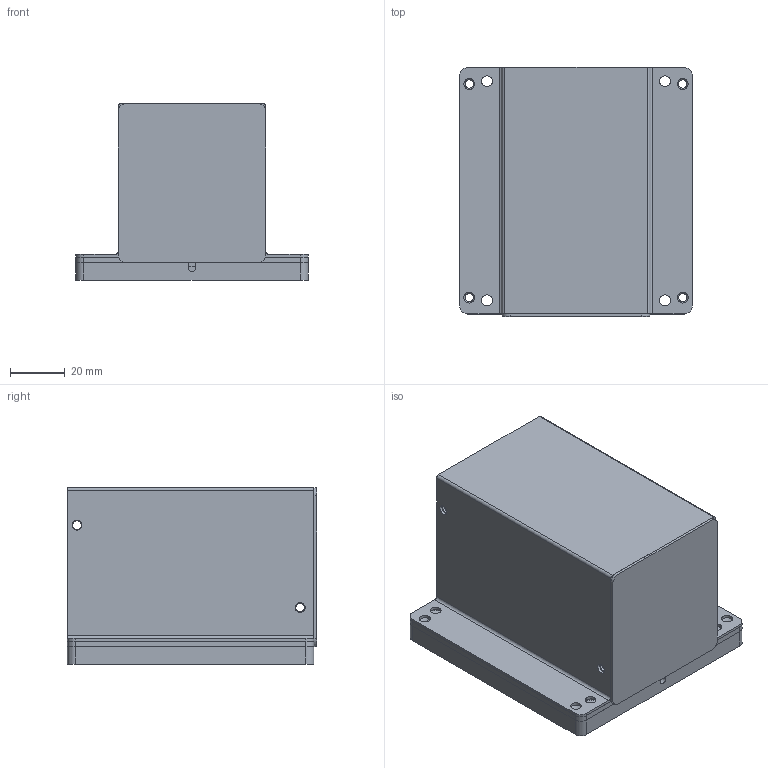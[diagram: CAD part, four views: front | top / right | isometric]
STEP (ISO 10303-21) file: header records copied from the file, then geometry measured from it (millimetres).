
FILE_DESCRIPTION (( 'STEP AP214' ), '1' );
FILE_NAME ('3DEE_STD_OA50X50_IND_A.STEP', '2019-11-08T10:10:41', ( '' ), ( '' ), 'SwSTEP 2.0', 'SolidWorks 2012', '' );
FILE_SCHEMA (( 'AUTOMOTIVE_DESIGN' ));
Length unit declared in the file: millimetre
Products named in the file (1): 3DEE_STD_OA50X50_IND_A
Bounding box: 85 x 91 x 64.5 mm (x, y, z)
Surface area: 75231.5 mm2 (no closed solid volume)
Topology: 0 solids, 11 shells, 154 faces, 565 edges, 407 vertices
Faces by surface type: cylinder 93, plane 51, cone 8, bspline 2
Entity records: 7918 total; most frequent: CARTESIAN_POINT 1228, DIRECTION 1097, ORIENTED_EDGE 910, EDGE_CURVE 559, AXIS2_PLACEMENT_3D 409, VERTEX_POINT 404, LINE 279, VECTOR 279
